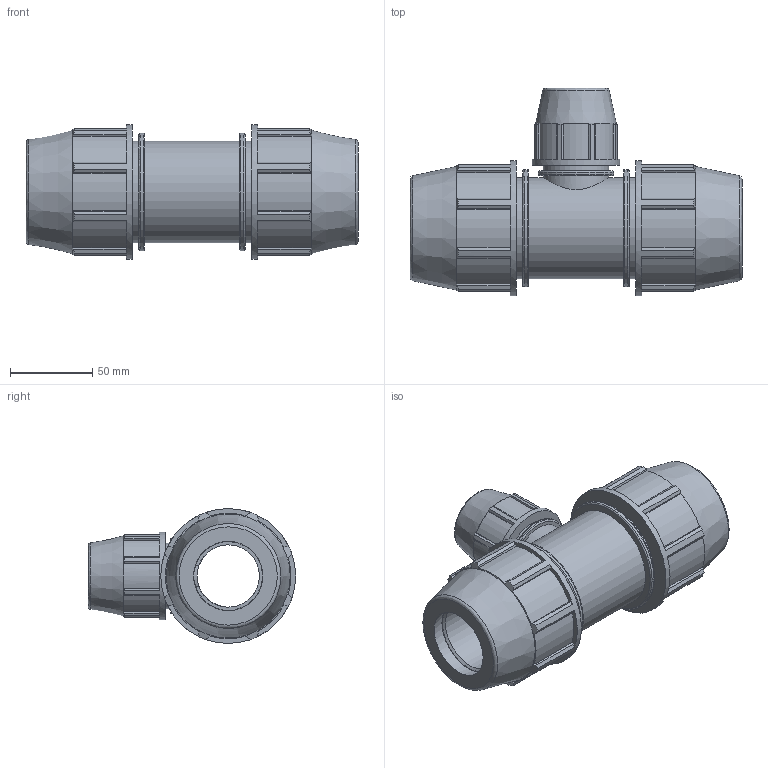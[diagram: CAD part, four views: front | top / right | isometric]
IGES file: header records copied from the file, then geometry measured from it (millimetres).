
Global section: file name: 0734M0013007.ipt; native system: Autodesk Inventor 2019; preprocessor: unknown; author: 12HКирилл; date: 20210826.124758; units: inch
Bounding box: 201.93 x 126.11 x 82.04 mm (x, y, z)
Volume: 568419.7 mm3; surface area: 102699 mm2
Topology: 1 solids, 1 shells, 201 faces, 575 edges, 388 vertices
Faces by surface type: plane 138, cylinder 37, revolution 20, cone 6
Full cylindrical faces by diameter (mm): 39.814 x2, 46.185 x1, 53.086 x1, 61.531 x3, 71.377 x2, 82.042 x2
